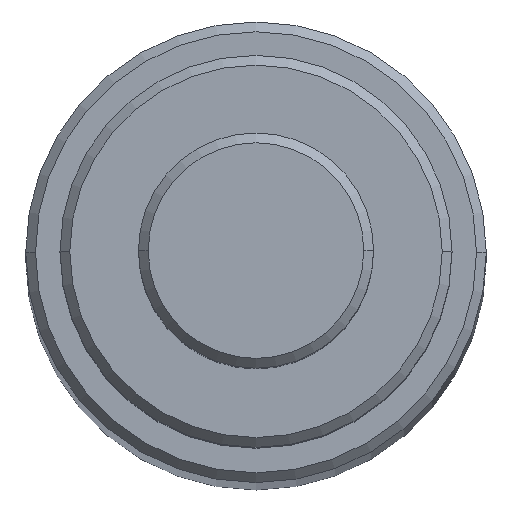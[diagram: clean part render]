
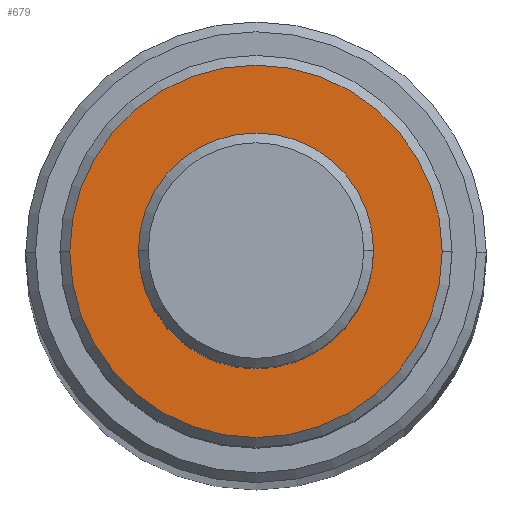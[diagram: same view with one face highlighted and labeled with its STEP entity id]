
A CAD part, top view. The second image highlights one B-rep face of the part: STEP entity #679.
In plain terms, the highlighted planar face has unit normal (0, 0, 1).
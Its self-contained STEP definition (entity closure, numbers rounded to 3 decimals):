
#9 = AXIS2_PLACEMENT_3D ( 'NONE', #694, #1095, #418 ) ;
#58 = EDGE_CURVE ( 'NONE', #1102, #532, #1125, .T. ) ;
#65 = CARTESIAN_POINT ( 'NONE',  ( 0., 0., 516.8 ) ) ;
#74 = ORIENTED_EDGE ( 'NONE', *, *, #740, .T. ) ;
#93 = AXIS2_PLACEMENT_3D ( 'NONE', #65, #960, #949 ) ;
#266 = EDGE_CURVE ( 'NONE', #353, #1038, #872, .T. ) ;
#274 = DIRECTION ( 'NONE',  ( 0., 0., 1. ) ) ;
#316 = AXIS2_PLACEMENT_3D ( 'NONE', #649, #668, #452 ) ;
#338 = EDGE_CURVE ( 'NONE', #1038, #353, #665, .T. ) ;
#353 = VERTEX_POINT ( 'NONE', #1262 ) ;
#356 = CARTESIAN_POINT ( 'NONE',  ( 0., 0., 516.8 ) ) ;
#371 = CARTESIAN_POINT ( 'NONE',  ( 0., 0., 516.8 ) ) ;
#418 = DIRECTION ( 'NONE',  ( 1., 0., 0. ) ) ;
#442 = AXIS2_PLACEMENT_3D ( 'NONE', #356, #1158, #1147 ) ;
#452 = DIRECTION ( 'NONE',  ( 1., 0., 0. ) ) ;
#478 = EDGE_LOOP ( 'NONE', ( #861, #669 ) ) ;
#492 = ORIENTED_EDGE ( 'NONE', *, *, #58, .T. ) ;
#520 = CARTESIAN_POINT ( 'NONE',  ( 19., 0., 516.8 ) ) ;
#524 = CIRCLE ( 'NONE', #773, 19. ) ;
#532 = VERTEX_POINT ( 'NONE', #520 ) ;
#571 = FACE_BOUND ( 'NONE', #478, .T. ) ;
#649 = CARTESIAN_POINT ( 'NONE',  ( 0., 0., 516.8 ) ) ;
#652 = CARTESIAN_POINT ( 'NONE',  ( 12., 0., 516.8 ) ) ;
#665 = CIRCLE ( 'NONE', #442, 12. ) ;
#668 = DIRECTION ( 'NONE',  ( 0., 0., 1. ) ) ;
#669 = ORIENTED_EDGE ( 'NONE', *, *, #266, .F. ) ;
#679 = ADVANCED_FACE ( 'NONE', ( #1055, #571 ), #767, .T. ) ;
#694 = CARTESIAN_POINT ( 'NONE',  ( 0., 0., 516.8 ) ) ;
#740 = EDGE_CURVE ( 'NONE', #532, #1102, #524, .T. ) ;
#767 = PLANE ( 'NONE',  #93 ) ;
#773 = AXIS2_PLACEMENT_3D ( 'NONE', #371, #274, #1245 ) ;
#861 = ORIENTED_EDGE ( 'NONE', *, *, #338, .F. ) ;
#872 = CIRCLE ( 'NONE', #316, 12. ) ;
#903 = EDGE_LOOP ( 'NONE', ( #492, #74 ) ) ;
#949 = DIRECTION ( 'NONE',  ( 1., 0., 0. ) ) ;
#960 = DIRECTION ( 'NONE',  ( 0., 0., 1. ) ) ;
#1038 = VERTEX_POINT ( 'NONE', #652 ) ;
#1055 = FACE_OUTER_BOUND ( 'NONE', #903, .T. ) ;
#1070 = CARTESIAN_POINT ( 'NONE',  ( -19., 0., 516.8 ) ) ;
#1095 = DIRECTION ( 'NONE',  ( 0., 0., 1. ) ) ;
#1102 = VERTEX_POINT ( 'NONE', #1070 ) ;
#1125 = CIRCLE ( 'NONE', #9, 19. ) ;
#1147 = DIRECTION ( 'NONE',  ( 1., 0., 0. ) ) ;
#1158 = DIRECTION ( 'NONE',  ( 0., 0., 1. ) ) ;
#1245 = DIRECTION ( 'NONE',  ( 1., 0., 0. ) ) ;
#1262 = CARTESIAN_POINT ( 'NONE',  ( -12., 0., 516.8 ) ) ;
